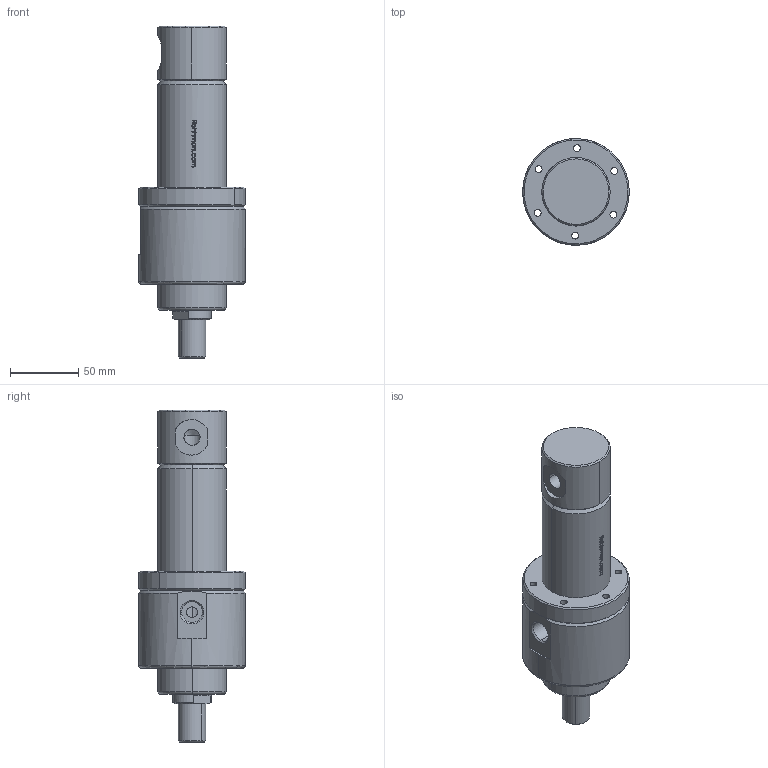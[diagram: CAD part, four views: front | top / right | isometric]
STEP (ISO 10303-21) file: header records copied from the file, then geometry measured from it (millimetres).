
FILE_DESCRIPTION (( 'STEP AP214' ), '1' );
FILE_NAME ('40_28_25_WEB.STEP', '2020-08-05T10:21:28', ( '' ), ( '' ), 'SwSTEP 2.0', 'SolidWorks 2018', '' );
FILE_SCHEMA (( 'AUTOMOTIVE_DESIGN' ));
Length unit declared in the file: millimetre
Products named in the file (11): KASTAS-K32-28X38X6; 40_烰_KAPAK; KASTAS-K06-28X36_6X5_3X7; 40_28_25_WEB; KASTAS-K84-32_8X40X3_4; 40_25_HON_BORU_WEB; TYAK_40_50; Assem1; FLANS; 28_K_MIL_WEB; Kastas Seals-K68-28X32X9_7
Assembly tree (11 placements, depth 3):
  40_28_25_WEB
    40_25_HON_BORU_WEB
    28_K_MIL_WEB
    Assem1
      40_烰_KAPAK
      KASTAS-K06-28X36_6X5_3X7
      KASTAS-K32-28X38X6
      Kastas Seals-K68-28X32X9_7  x2
      KASTAS-K84-32_8X40X3_4
    FLANS
    TYAK_40_50
Bounding box: 78 x 78 x 243 mm (x, y, z)
Volume: 447566 mm3; surface area: 113037.7 mm2
Topology: 10 solids, 10 shells, 483 faces, 1177 edges, 751 vertices
Faces by surface type: plane 143, cylinder 130, cone 103, bspline 103, torus 4
Entity records: 21002 total; most frequent: CARTESIAN_POINT 8059, ORIENTED_EDGE 2258, DIRECTION 2058, EDGE_CURVE 1129, AXIS2_PLACEMENT_3D 795, VERTEX_POINT 720, EDGE_LOOP 541, LINE 468
